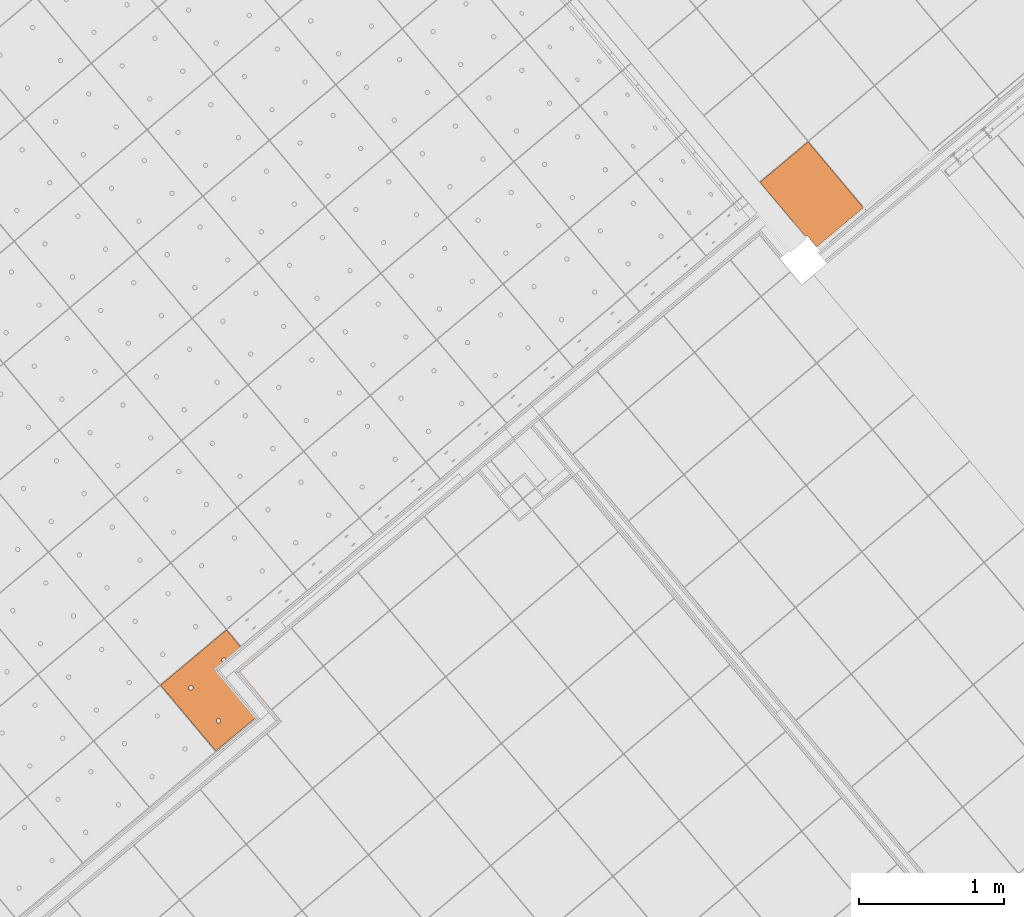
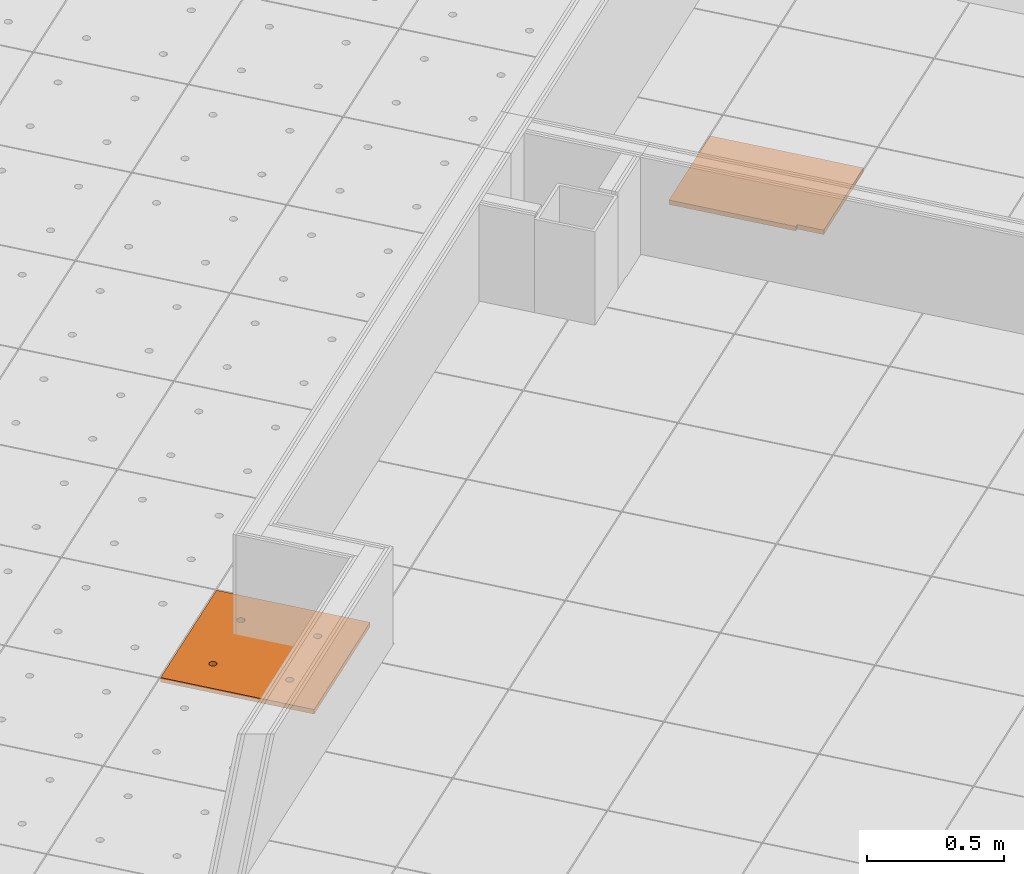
# One storey, part 314 of 338: 2 proxies, 2 elements without a shape of their own.
"""IFC2X3 building model written with IfcOpenShell, lengths in millimetres."""

from ifc_helpers import new_model, entity, si_unit, converted_unit, derived_unit, money_unit, direction, frame, origin_with_axes, place, context, subcontext, project, spatial, faceted_brep, material, type_object, element, aggregate, save


model = new_model("IFC2X3")

# Units and contexts
model_context = context("Model", 3, precision=0.01, world=origin_with_axes(), true_north=direction((0.0, 1.0)))
plan_context = context("Plan", 3, precision=0.01, world=origin_with_axes(), true_north=direction((0.0, 1.0)))
body_context = subcontext(model_context, "Body", "Model", "MODEL_VIEW")
ifc_project = project(units=[si_unit("LENGTHUNIT", "METRE", prefix="MILLI"), si_unit("AREAUNIT", "SQUARE_METRE"), si_unit("VOLUMEUNIT", "CUBIC_METRE"), converted_unit("PLANEANGLEUNIT", "DEGREE", entity("IfcPlaneAngleMeasure", 0.0174532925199), si_unit("PLANEANGLEUNIT", "RADIAN"), dimensions=[0, 0, 0, 0, 0, 0, 0]), money_unit("EUR"), converted_unit("TIMEUNIT", "Year", entity("IfcTimeMeasure", 31556926.0), si_unit("TIMEUNIT", "SECOND"), dimensions=[0, 0, 1, 0, 0, 0, 0]), si_unit("MASSUNIT", "GRAM", prefix="KILO"), si_unit("THERMODYNAMICTEMPERATUREUNIT", "DEGREE_CELSIUS"), si_unit("LUMINOUSINTENSITYUNIT", "LUMEN"), si_unit("ENERGYUNIT", "JOULE", prefix="MEGA"), derived_unit("THERMALCONDUCTANCEUNIT", [(si_unit("POWERUNIT", "WATT"), 1), (si_unit("LENGTHUNIT", "METRE"), -1), (si_unit("THERMODYNAMICTEMPERATUREUNIT", "KELVIN"), -1)]), derived_unit("SPECIFICHEATCAPACITYUNIT", [(si_unit("ENERGYUNIT", "JOULE"), 1), (si_unit("MASSUNIT", "GRAM", prefix="KILO"), -1), (si_unit("THERMODYNAMICTEMPERATUREUNIT", "KELVIN"), -1)]), derived_unit("MASSDENSITYUNIT", [(si_unit("MASSUNIT", "GRAM", prefix="KILO"), 1), (si_unit("VOLUMEUNIT", "CUBIC_METRE"), -1)])], contexts=[model_context, plan_context])

# Site, building, storey
site_placement = place(None, origin_with_axes())
site = spatial("IfcSite", under=ifc_project, at=site_placement, Name="Fortuinstraat Woensdrecht", CompositionType="ELEMENT")
building_placement = place(site_placement, origin_with_axes())
building = spatial("IfcBuilding", under=site, at=building_placement, Name="IKC Fortuna", CompositionType="ELEMENT")
storey_placement = place(building_placement, origin_with_axes())
storey = spatial("IfcBuildingStorey", under=building, at=storey_placement, Name="00 begane grond", CompositionType="ELEMENT", Elevation=0.0)

# Covering, proxy
covering_type = type_object("IfcCoveringType", Name="Curtain Wall Type", PredefinedType="CEILING")
covering_1_placement = place(storey_placement, frame((15863.124366, 4456.31398675, 4619.99995334), z_axis=(0.0, 0.0, 1.0), x_axis=(1.0, 0.0, 0.0)))
covering_1 = element("IfcCovering", 1, at=covering_1_placement, inside=storey, type_object=covering_type, Name="45_Plafondafwerking_P01", PredefinedType="CEILING")
ifc_material = material(Name="Gipsplaat")
building_element_proxy_type_1 = type_object("IfcBuildingElementProxyType", Name="Main Panel 600 x 600 x 20", PredefinedType="NOTDEFINED")
proxy_1_placement = place(covering_1_placement, frame((-3610.85415209, -3317.50273076, 26.3909377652), z_axis=(0.0, 0.0, 1.0), x_axis=(0.642787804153, -0.766044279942, 0.0)))
proxy_1 = element("IfcBuildingElementProxy", 2, at=proxy_1_placement, type_object=building_element_proxy_type_1, material=ifc_material, Name="__600x082 Rockfon Krios", context=body_context, shape_type="Brep", body=[
    faceted_brep([(-249.136271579, 279.340006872, -11.5100012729), (-249.136271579, -18.1556492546, -9.90201332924), (-249.136271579, -18.0475492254, 10.0976945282), (-249.136271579, 279.448106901, 8.48970658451), (48.3637279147, 279.340006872, -11.5100012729), (345.863727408, 279.340006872, -11.5100012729), (345.863727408, -18.1556492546, -9.90201332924), (345.863727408, -315.651305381, -8.29402538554), (48.3637279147, -315.651305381, -8.29402538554), (-249.136271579, -315.651305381, -8.29402538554), (198.426057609, 115.592397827, -10.6249322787), (201.010843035, 116.048158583, -10.6273957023), (203.477216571, 116.945832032, -10.6322476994), (205.750238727, 118.258142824, -10.6393408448), (207.760844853, 119.945217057, -10.6484596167), (209.44794372, 121.955793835, -10.6593269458), (210.760273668, 124.228782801, -10.671612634), (211.657960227, 126.695120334, -10.6849433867), (212.113727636, 129.279868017, -10.6989141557), (212.113727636, 131.9044896, -10.7131004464), (211.657960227, 134.489237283, -10.7270712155), (210.760273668, 136.955574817, -10.7404019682), (209.44794372, 139.228563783, -10.7526876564), (207.760844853, 141.23914056, -10.7635549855), (205.750238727, 142.926214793, -10.7726737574), (203.477216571, 144.238525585, -10.7797669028), (201.010843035, 145.136199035, -10.7846188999), (198.426057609, 145.59195979, -10.7870823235), (197.113727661, 145.59195979, -10.7870823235), (195.801397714, 145.59195979, -10.7870823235), (193.216612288, 145.136199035, -10.7846188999), (190.750238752, 144.238525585, -10.7797669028), (188.477216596, 142.926214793, -10.7726737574), (186.46661047, 141.23914056, -10.7635549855), (184.779511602, 139.228563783, -10.7526876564), (183.467181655, 136.955574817, -10.7404019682), (182.569495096, 134.489237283, -10.7270712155), (182.113727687, 131.9044896, -10.7131004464), (182.113727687, 129.279868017, -10.6989141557), (182.569495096, 126.695120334, -10.6849433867), (183.467181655, 124.228782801, -10.671612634), (184.779511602, 121.955793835, -10.6593269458), (186.46661047, 119.945217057, -10.6484596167), (188.477216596, 118.258142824, -10.6393408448), (190.750238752, 116.945832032, -10.6322476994), (193.216612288, 116.048158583, -10.6273957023), (195.801397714, 115.592397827, -10.6249322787), (198.426057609, -181.903258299, -9.01694433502), (201.010843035, -181.447497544, -9.01940775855), (203.477216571, -180.549824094, -9.02425975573), (205.750238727, -179.237513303, -9.03135290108), (207.760844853, -177.550439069, -9.04047167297), (209.44794372, -175.539862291, -9.05133900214), (210.760273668, -173.266873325, -9.06362469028), (211.657960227, -170.800535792, -9.07695544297), (212.113727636, -168.215788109, -9.09092621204), (212.113727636, -165.591166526, -9.10511250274), (211.657960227, -163.006418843, -9.11908327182), (210.760273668, -160.54008131, -9.13241402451), (209.44794372, -158.267092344, -9.14469971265), (207.760844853, -156.256515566, -9.15556704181), (205.750238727, -154.569441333, -9.1646858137), (203.477216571, -153.257130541, -9.17177895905), (201.010843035, -152.359457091, -9.17663095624), (198.426057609, -151.903696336, -9.17909437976), (197.113727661, -151.903696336, -9.17909437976), (195.801397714, -151.903696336, -9.17909437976), (193.216612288, -152.359457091, -9.17663095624), (190.750238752, -153.257130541, -9.17177895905), (188.477216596, -154.569441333, -9.1646858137), (186.46661047, -156.256515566, -9.15556704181), (184.779511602, -158.267092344, -9.14469971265), (183.467181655, -160.54008131, -9.13241402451), (182.569495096, -163.006418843, -9.11908327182), (182.113727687, -165.591166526, -9.10511250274), (182.113727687, -168.215788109, -9.09092621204), (182.569495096, -170.800535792, -9.07695544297), (183.467181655, -173.266873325, -9.06362469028), (184.779511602, -175.539862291, -9.05133900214), (186.46661047, -177.550439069, -9.04047167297), (188.477216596, -179.237513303, -9.03135290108), (190.750238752, -180.549824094, -9.02425975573), (193.216612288, -181.447497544, -9.01940775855), (195.801397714, -181.903258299, -9.01694433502), (-99.0739418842, -181.903258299, -9.01694433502), (-96.4891564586, -181.447497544, -9.01940775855), (-94.0227829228, -180.549824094, -9.02425975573), (-91.7497607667, -179.237513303, -9.03135290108), (-89.7391546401, -177.550439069, -9.04047167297), (-88.052055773, -175.539862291, -9.05133900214), (-86.7397258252, -173.266873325, -9.06362469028), (-85.8420392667, -170.800535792, -9.07695544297), (-85.3862718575, -168.215788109, -9.09092621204), (-85.3862718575, -165.591166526, -9.10511250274), (-85.8420392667, -163.006418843, -9.11908327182), (-86.7397258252, -160.54008131, -9.13241402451), (-88.052055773, -158.267092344, -9.14469971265), (-89.7391546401, -156.256515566, -9.15556704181), (-91.7497607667, -154.569441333, -9.1646858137), (-94.0227829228, -153.257130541, -9.17177895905), (-96.4891564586, -152.359457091, -9.17663095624), (-99.0739418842, -151.903696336, -9.17909437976), (-100.386271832, -151.903696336, -9.17909437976), (-101.69860178, -151.903696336, -9.17909437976), (-104.283387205, -152.359457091, -9.17663095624), (-106.749760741, -153.257130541, -9.17177895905), (-109.022782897, -154.569441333, -9.1646858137), (-111.033389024, -156.256515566, -9.15556704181), (-112.720487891, -158.267092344, -9.14469971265), (-114.032817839, -160.54008131, -9.13241402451), (-114.930504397, -163.006418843, -9.11908327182), (-115.386271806, -165.591166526, -9.10511250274), (-115.386271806, -168.215788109, -9.09092621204), (-114.930504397, -170.800535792, -9.07695544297), (-114.032817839, -173.266873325, -9.06362469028), (-112.720487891, -175.539862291, -9.05133900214), (-111.033389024, -177.550439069, -9.04047167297), (-109.022782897, -179.237513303, -9.03135290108), (-106.749760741, -180.549824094, -9.02425975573), (-104.283387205, -181.447497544, -9.01940775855), (-101.69860178, -181.903258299, -9.01694433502), (-99.0739418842, 115.592397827, -10.6249322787), (-96.4891564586, 116.048158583, -10.6273957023), (-94.0227829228, 116.945832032, -10.6322476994), (-91.7497607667, 118.258142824, -10.6393408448), (-89.7391546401, 119.945217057, -10.6484596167), (-88.052055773, 121.955793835, -10.6593269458), (-86.7397258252, 124.228782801, -10.671612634), (-85.8420392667, 126.695120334, -10.6849433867), (-85.3862718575, 129.279868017, -10.6989141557), (-85.3862718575, 131.9044896, -10.7131004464), (-85.8420392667, 134.489237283, -10.7270712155), (-86.7397258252, 136.955574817, -10.7404019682), (-88.052055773, 139.228563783, -10.7526876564), (-89.7391546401, 141.23914056, -10.7635549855), (-91.7497607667, 142.926214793, -10.7726737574), (-94.0227829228, 144.238525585, -10.7797669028), (-96.4891564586, 145.136199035, -10.7846188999), (-99.0739418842, 145.59195979, -10.7870823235), (-100.386271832, 145.59195979, -10.7870823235), (-101.69860178, 145.59195979, -10.7870823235), (-104.283387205, 145.136199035, -10.7846188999), (-106.749760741, 144.238525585, -10.7797669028), (-109.022782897, 142.926214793, -10.7726737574), (-111.033389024, 141.23914056, -10.7635549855), (-112.720487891, 139.228563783, -10.7526876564), (-114.032817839, 136.955574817, -10.7404019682), (-114.930504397, 134.489237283, -10.7270712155), (-115.386271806, 131.9044896, -10.7131004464), (-115.386271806, 129.279868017, -10.6989141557), (-114.930504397, 126.695120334, -10.6849433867), (-114.032817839, 124.228782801, -10.671612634), (-112.720487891, 121.955793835, -10.6593269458), (-111.033389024, 119.945217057, -10.6484596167), (-109.022782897, 118.258142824, -10.6393408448), (-106.749760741, 116.945832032, -10.6322476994), (-104.283387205, 116.048158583, -10.6273957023), (-101.69860178, 115.592397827, -10.6249322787), (-249.136271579, -315.543205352, 11.7056824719), (48.3637279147, -315.543205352, 11.7056824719), (345.863727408, -315.543205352, 11.7056824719), (345.863727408, -18.0475492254, 10.0976945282), (345.863727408, 279.448106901, 8.48970658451), (48.3637279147, 279.448106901, 8.48970658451), (198.426057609, 115.700497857, 9.37477557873), (195.801397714, 115.700497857, 9.37477557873), (193.216612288, 116.156258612, 9.3723121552), (190.750238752, 117.053932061, 9.36746015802), (188.477216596, 118.366242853, 9.36036701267), (186.46661047, 120.053317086, 9.35124824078), (184.779511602, 122.063893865, 9.34038091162), (183.467181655, 124.336882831, 9.32809522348), (182.569495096, 126.803220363, 9.31476447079), (182.113727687, 129.387968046, 9.30079370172), (182.113727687, 132.012589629, 9.28660741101), (182.569495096, 134.597337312, 9.27263664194), (183.467181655, 137.063674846, 9.25930588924), (184.779511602, 139.336663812, 9.24702020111), (186.46661047, 141.347240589, 9.23615287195), (188.477216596, 143.034314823, 9.22703410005), (190.750238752, 144.346625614, 9.2199409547), (193.216612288, 145.244299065, 9.21508895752), (195.801397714, 145.700059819, 9.21262553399), (197.113727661, 145.700059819, 9.21262553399), (198.426057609, 145.700059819, 9.21262553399), (201.010843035, 145.244299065, 9.21508895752), (203.477216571, 144.346625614, 9.2199409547), (205.750238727, 143.034314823, 9.22703410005), (207.760844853, 141.347240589, 9.23615287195), (209.44794372, 139.336663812, 9.24702020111), (210.760273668, 137.063674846, 9.25930588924), (211.657960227, 134.597337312, 9.27263664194), (212.113727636, 132.012589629, 9.28660741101), (212.113727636, 129.387968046, 9.30079370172), (211.657960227, 126.803220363, 9.31476447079), (210.760273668, 124.336882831, 9.32809522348), (209.44794372, 122.063893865, 9.34038091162), (207.760844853, 120.053317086, 9.35124824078), (205.750238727, 118.366242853, 9.36036701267), (203.477216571, 117.053932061, 9.36746015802), (201.010843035, 116.156258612, 9.3723121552), (198.426057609, -181.79515827, 10.9827635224), (195.801397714, -181.79515827, 10.9827635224), (193.216612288, -181.339397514, 10.9803000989), (190.750238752, -180.441724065, 10.9754481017), (188.477216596, -179.129413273, 10.9683549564), (186.46661047, -177.44233904, 10.9592361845), (184.779511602, -175.431762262, 10.9483688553), (183.467181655, -173.158773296, 10.9360831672), (182.569495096, -170.692435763, 10.9227524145), (182.113727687, -168.10768808, 10.9087816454), (182.113727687, -165.483066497, 10.8945953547), (182.569495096, -162.898318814, 10.8806245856), (183.467181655, -160.43198128, 10.8672938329), (184.779511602, -158.158992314, 10.8550081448), (186.46661047, -156.148415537, 10.8441408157), (188.477216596, -154.461341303, 10.8350220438), (190.750238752, -153.149030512, 10.8279288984), (193.216612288, -152.251357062, 10.8230769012), (195.801397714, -151.795596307, 10.8206134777), (197.113727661, -151.795596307, 10.8206134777), (198.426057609, -151.795596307, 10.8206134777), (201.010843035, -152.251357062, 10.8230769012), (203.477216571, -153.149030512, 10.8279288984), (205.750238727, -154.461341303, 10.8350220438), (207.760844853, -156.148415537, 10.8441408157), (209.44794372, -158.158992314, 10.8550081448), (210.760273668, -160.43198128, 10.8672938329), (211.657960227, -162.898318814, 10.8806245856), (212.113727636, -165.483066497, 10.8945953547), (212.113727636, -168.10768808, 10.9087816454), (211.657960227, -170.692435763, 10.9227524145), (210.760273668, -173.158773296, 10.9360831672), (209.44794372, -175.431762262, 10.9483688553), (207.760844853, -177.44233904, 10.9592361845), (205.750238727, -179.129413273, 10.9683549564), (203.477216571, -180.441724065, 10.9754481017), (201.010843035, -181.339397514, 10.9803000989), (-99.0739418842, -181.79515827, 10.9827635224), (-101.69860178, -181.79515827, 10.9827635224), (-104.283387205, -181.339397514, 10.9803000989), (-106.749760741, -180.441724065, 10.9754481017), (-109.022782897, -179.129413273, 10.9683549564), (-111.033389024, -177.44233904, 10.9592361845), (-112.720487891, -175.431762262, 10.9483688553), (-114.032817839, -173.158773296, 10.9360831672), (-114.930504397, -170.692435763, 10.9227524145), (-115.386271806, -168.10768808, 10.9087816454), (-115.386271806, -165.483066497, 10.8945953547), (-114.930504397, -162.898318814, 10.8806245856), (-114.032817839, -160.43198128, 10.8672938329), (-112.720487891, -158.158992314, 10.8550081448), (-111.033389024, -156.148415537, 10.8441408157), (-109.022782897, -154.461341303, 10.8350220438), (-106.749760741, -153.149030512, 10.8279288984), (-104.283387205, -152.251357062, 10.8230769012), (-101.69860178, -151.795596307, 10.8206134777), (-100.386271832, -151.795596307, 10.8206134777), (-99.0739418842, -151.795596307, 10.8206134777), (-96.4891564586, -152.251357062, 10.8230769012), (-94.0227829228, -153.149030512, 10.8279288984), (-91.7497607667, -154.461341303, 10.8350220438), (-89.7391546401, -156.148415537, 10.8441408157), (-88.052055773, -158.158992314, 10.8550081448), (-86.7397258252, -160.43198128, 10.8672938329), (-85.8420392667, -162.898318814, 10.8806245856), (-85.3862718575, -165.483066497, 10.8945953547), (-85.3862718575, -168.10768808, 10.9087816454), (-85.8420392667, -170.692435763, 10.9227524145), (-86.7397258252, -173.158773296, 10.9360831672), (-88.052055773, -175.431762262, 10.9483688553), (-89.7391546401, -177.44233904, 10.9592361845), (-91.7497607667, -179.129413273, 10.9683549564), (-94.0227829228, -180.441724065, 10.9754481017), (-96.4891564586, -181.339397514, 10.9803000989), (-99.0739418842, 115.700497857, 9.37477557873), (-101.69860178, 115.700497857, 9.37477557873), (-104.283387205, 116.156258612, 9.3723121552), (-106.749760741, 117.053932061, 9.36746015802), (-109.022782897, 118.366242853, 9.36036701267), (-111.033389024, 120.053317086, 9.35124824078), (-112.720487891, 122.063893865, 9.34038091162), (-114.032817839, 124.336882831, 9.32809522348), (-114.930504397, 126.803220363, 9.31476447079), (-115.386271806, 129.387968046, 9.30079370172), (-115.386271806, 132.012589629, 9.28660741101), (-114.930504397, 134.597337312, 9.27263664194), (-114.032817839, 137.063674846, 9.25930588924), (-112.720487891, 139.336663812, 9.24702020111), (-111.033389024, 141.347240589, 9.23615287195), (-109.022782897, 143.034314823, 9.22703410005), (-106.749760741, 144.346625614, 9.2199409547), (-104.283387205, 145.244299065, 9.21508895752), (-101.69860178, 145.700059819, 9.21262553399), (-100.386271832, 145.700059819, 9.21262553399), (-99.0739418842, 145.700059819, 9.21262553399), (-96.4891564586, 145.244299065, 9.21508895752), (-94.0227829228, 144.346625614, 9.2199409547), (-91.7497607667, 143.034314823, 9.22703410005), (-89.7391546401, 141.347240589, 9.23615287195), (-88.052055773, 139.336663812, 9.24702020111), (-86.7397258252, 137.063674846, 9.25930588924), (-85.8420392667, 134.597337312, 9.27263664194), (-85.3862718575, 132.012589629, 9.28660741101), (-85.3862718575, 129.387968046, 9.30079370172), (-85.8420392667, 126.803220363, 9.31476447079), (-86.7397258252, 124.336882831, 9.32809522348), (-88.052055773, 122.063893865, 9.34038091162), (-89.7391546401, 120.053317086, 9.35124824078), (-91.7497607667, 118.366242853, 9.36036701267), (-94.0227829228, 117.053932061, 9.36746015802), (-96.4891564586, 116.156258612, 9.3723121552)], [[[0, 1, 2, 3]], [[0, 4, 5, 6, 7, 8, 9, 1], [10, 11, 12, 13, 14, 15, 16, 17, 18, 19, 20, 21, 22, 23, 24, 25, 26, 27, 28, 29, 30, 31, 32, 33, 34, 35, 36, 37, 38, 39, 40, 41, 42, 43, 44, 45, 46], [47, 48, 49, 50, 51, 52, 53, 54, 55, 56, 57, 58, 59, 60, 61, 62, 63, 64, 65, 66, 67, 68, 69, 70, 71, 72, 73, 74, 75, 76, 77, 78, 79, 80, 81, 82, 83], [84, 85, 86, 87, 88, 89, 90, 91, 92, 93, 94, 95, 96, 97, 98, 99, 100, 101, 102, 103, 104, 105, 106, 107, 108, 109, 110, 111, 112, 113, 114, 115, 116, 117, 118, 119, 120], [121, 122, 123, 124, 125, 126, 127, 128, 129, 130, 131, 132, 133, 134, 135, 136, 137, 138, 139, 140, 141, 142, 143, 144, 145, 146, 147, 148, 149, 150, 151, 152, 153, 154, 155, 156, 157]], [[1, 9, 158, 2]], [[3, 2, 158, 159, 160, 161, 162, 163], [164, 165, 166, 167, 168, 169, 170, 171, 172, 173, 174, 175, 176, 177, 178, 179, 180, 181, 182, 183, 184, 185, 186, 187, 188, 189, 190, 191, 192, 193, 194, 195, 196, 197, 198, 199, 200], [201, 202, 203, 204, 205, 206, 207, 208, 209, 210, 211, 212, 213, 214, 215, 216, 217, 218, 219, 220, 221, 222, 223, 224, 225, 226, 227, 228, 229, 230, 231, 232, 233, 234, 235, 236, 237], [238, 239, 240, 241, 242, 243, 244, 245, 246, 247, 248, 249, 250, 251, 252, 253, 254, 255, 256, 257, 258, 259, 260, 261, 262, 263, 264, 265, 266, 267, 268, 269, 270, 271, 272, 273, 274], [275, 276, 277, 278, 279, 280, 281, 282, 283, 284, 285, 286, 287, 288, 289, 290, 291, 292, 293, 294, 295, 296, 297, 298, 299, 300, 301, 302, 303, 304, 305, 306, 307, 308, 309, 310, 311]], [[4, 0, 3, 163]], [[5, 4, 163, 162]], [[6, 5, 162, 161]], [[7, 6, 161, 160]], [[8, 7, 160, 159]], [[9, 8, 159, 158]], [[11, 10, 164, 200]], [[12, 11, 200, 199]], [[13, 12, 199, 198]], [[14, 13, 198, 197]], [[15, 14, 197, 196]], [[16, 15, 196, 195]], [[17, 16, 195, 194]], [[18, 17, 194, 193]], [[19, 18, 193, 192]], [[20, 19, 192, 191]], [[21, 20, 191, 190]], [[22, 21, 190, 189]], [[23, 22, 189, 188]], [[24, 23, 188, 187]], [[25, 24, 187, 186]], [[26, 25, 186, 185]], [[27, 26, 185, 184]], [[28, 27, 184, 183]], [[29, 28, 183, 182]], [[30, 29, 182, 181]], [[31, 30, 181, 180]], [[32, 31, 180, 179]], [[33, 32, 179, 178]], [[34, 33, 178, 177]], [[35, 34, 177, 176]], [[36, 35, 176, 175]], [[37, 36, 175, 174]], [[38, 37, 174, 173]], [[39, 38, 173, 172]], [[40, 39, 172, 171]], [[41, 40, 171, 170]], [[42, 41, 170, 169]], [[43, 42, 169, 168]], [[44, 43, 168, 167]], [[45, 44, 167, 166]], [[46, 45, 166, 165]], [[10, 46, 165, 164]], [[48, 47, 201, 237]], [[49, 48, 237, 236]], [[50, 49, 236, 235]], [[51, 50, 235, 234]], [[52, 51, 234, 233]], [[53, 52, 233, 232]], [[54, 53, 232, 231]], [[55, 54, 231, 230]], [[56, 55, 230, 229]], [[57, 56, 229, 228]], [[58, 57, 228, 227]], [[59, 58, 227, 226]], [[60, 59, 226, 225]], [[61, 60, 225, 224]], [[62, 61, 224, 223]], [[63, 62, 223, 222]], [[64, 63, 222, 221]], [[65, 64, 221, 220]], [[66, 65, 220, 219]], [[67, 66, 219, 218]], [[68, 67, 218, 217]], [[69, 68, 217, 216]], [[70, 69, 216, 215]], [[71, 70, 215, 214]], [[72, 71, 214, 213]], [[73, 72, 213, 212]], [[74, 73, 212, 211]], [[75, 74, 211, 210]], [[76, 75, 210, 209]], [[77, 76, 209, 208]], [[78, 77, 208, 207]], [[79, 78, 207, 206]], [[80, 79, 206, 205]], [[81, 80, 205, 204]], [[82, 81, 204, 203]], [[83, 82, 203, 202]], [[47, 83, 202, 201]], [[85, 84, 238, 274]], [[86, 85, 274, 273]], [[87, 86, 273, 272]], [[88, 87, 272, 271]], [[89, 88, 271, 270]], [[90, 89, 270, 269]], [[91, 90, 269, 268]], [[92, 91, 268, 267]], [[93, 92, 267, 266]], [[94, 93, 266, 265]], [[95, 94, 265, 264]], [[96, 95, 264, 263]], [[97, 96, 263, 262]], [[98, 97, 262, 261]], [[99, 98, 261, 260]], [[100, 99, 260, 259]], [[101, 100, 259, 258]], [[102, 101, 258, 257]], [[103, 102, 257, 256]], [[104, 103, 256, 255]], [[105, 104, 255, 254]], [[106, 105, 254, 253]], [[107, 106, 253, 252]], [[108, 107, 252, 251]], [[109, 108, 251, 250]], [[110, 109, 250, 249]], [[111, 110, 249, 248]], [[112, 111, 248, 247]], [[113, 112, 247, 246]], [[114, 113, 246, 245]], [[115, 114, 245, 244]], [[116, 115, 244, 243]], [[117, 116, 243, 242]], [[118, 117, 242, 241]], [[119, 118, 241, 240]], [[120, 119, 240, 239]], [[84, 120, 239, 238]], [[122, 121, 275, 311]], [[123, 122, 311, 310]], [[124, 123, 310, 309]], [[125, 124, 309, 308]], [[126, 125, 308, 307]], [[127, 126, 307, 306]], [[128, 127, 306, 305]], [[129, 128, 305, 304]], [[130, 129, 304, 303]], [[131, 130, 303, 302]], [[132, 131, 302, 301]], [[133, 132, 301, 300]], [[134, 133, 300, 299]], [[135, 134, 299, 298]], [[136, 135, 298, 297]], [[137, 136, 297, 296]], [[138, 137, 296, 295]], [[139, 138, 295, 294]], [[140, 139, 294, 293]], [[141, 140, 293, 292]], [[142, 141, 292, 291]], [[143, 142, 291, 290]], [[144, 143, 290, 289]], [[145, 144, 289, 288]], [[146, 145, 288, 287]], [[147, 146, 287, 286]], [[148, 147, 286, 285]], [[149, 148, 285, 284]], [[150, 149, 284, 283]], [[151, 150, 283, 282]], [[152, 151, 282, 281]], [[153, 152, 281, 280]], [[154, 153, 280, 279]], [[155, 154, 279, 278]], [[156, 155, 278, 277]], [[157, 156, 277, 276]], [[121, 157, 276, 275]]]),
])
aggregate(covering_1, [proxy_1])

covering_2_placement = place(storey_placement, frame((15581.2998521, 5435.5548951, 3210.0), z_axis=(0.0, 0.0, 1.0), x_axis=(1.0, 0.0, 0.0)))
covering_2 = element("IfcCovering", 3, at=covering_2_placement, inside=storey, type_object=covering_type, Name="45_Plafondafwerking_P02 v", PredefinedType="CEILING")
building_element_proxy_type_2 = type_object("IfcBuildingElementProxyType", Name="Distinct Panel 427 x 600 x 20", PredefinedType="NOTDEFINED")
proxy_2_placement = place(covering_2_placement, frame((760.532488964, -1013.70944744, 0.0), z_axis=(0.0, 0.0, 1.0), x_axis=(1.0, 0.0, 0.0)))
proxy_2 = element("IfcBuildingElementProxy", 4, at=proxy_2_placement, type_object=building_element_proxy_type_2, material=ifc_material, Name="__Panel-D", context=body_context, shape_type="Brep", body=[
    faceted_brep([(-13.8976869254, 462.080402, -10.0), (-13.8976869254, 462.080402, 9.99999999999), (368.56100896, 6.28400960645, 9.99999999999), (368.56100896, 6.28400960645, -10.0), (-346.935433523, 182.628454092, -10.0), (-346.935433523, 182.628454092, 9.99999999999), (-31.1839466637, -193.669382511, 9.99999999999), (-21.31742175, -185.390388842, 9.99999999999), (45.3897981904, -264.888922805, 9.99999999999), (45.3897981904, -264.888922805, -10.0), (-21.31742175, -185.390388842, -10.0), (-31.1839466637, -193.669382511, -10.0)], [[[0, 1, 2, 3]], [[4, 5, 1, 0]], [[1, 5, 6, 7, 8, 2]], [[3, 2, 8, 9]], [[0, 3, 9, 10, 11, 4]], [[11, 6, 5, 4]], [[10, 7, 6, 11]], [[9, 8, 7, 10]]]),
])
aggregate(covering_2, [proxy_2])

save(model, "model.ifc")
